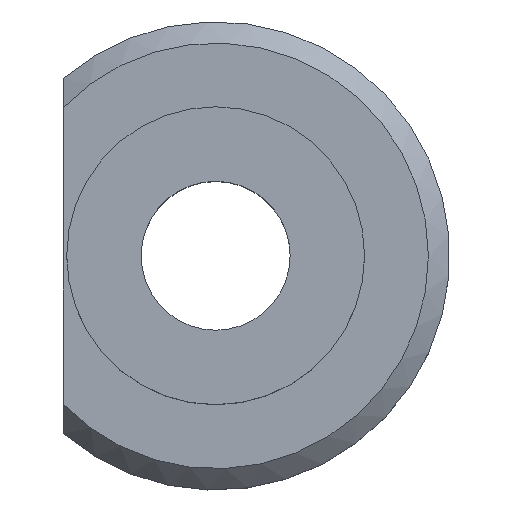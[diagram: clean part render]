
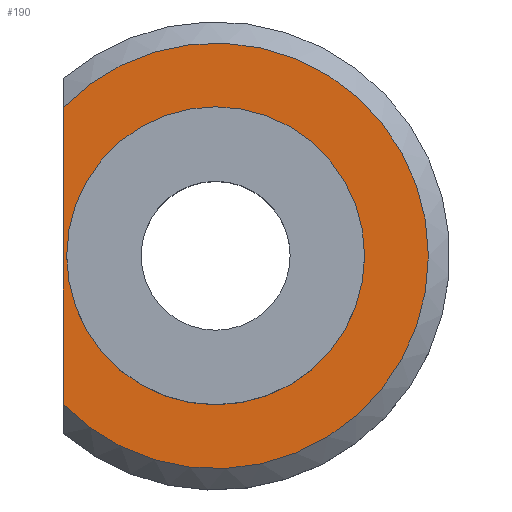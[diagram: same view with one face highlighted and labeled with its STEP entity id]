
A CAD part, top view. The second image highlights one B-rep face of the part: STEP entity #190.
In plain terms, the highlighted planar face has unit normal (0, 0, 1).
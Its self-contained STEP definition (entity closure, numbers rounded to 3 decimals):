
#2 = DIRECTION ( 'NONE',  ( 1., 0., 0. ) ) ;
#3 = FACE_OUTER_BOUND ( 'NONE', #61, .T. ) ;
#5 = ORIENTED_EDGE ( 'NONE', *, *, #242, .F. ) ;
#7 = ORIENTED_EDGE ( 'NONE', *, *, #295, .T. ) ;
#14 = CARTESIAN_POINT ( 'NONE',  ( 2.1, 0., 1.2 ) ) ;
#21 = CARTESIAN_POINT ( 'NONE',  ( -2.15, -2.092, 1.2 ) ) ;
#22 = CARTESIAN_POINT ( 'NONE',  ( 0., 0., 1.2 ) ) ;
#26 = DIRECTION ( 'NONE',  ( 0., 0., 1. ) ) ;
#30 = CIRCLE ( 'NONE', #234, 2.1 ) ;
#39 = DIRECTION ( 'NONE',  ( 0., 0., 1. ) ) ;
#49 = CARTESIAN_POINT ( 'NONE',  ( 0., 0., 1.2 ) ) ;
#57 = EDGE_CURVE ( 'NONE', #355, #92, #30, .T. ) ;
#61 = EDGE_LOOP ( 'NONE', ( #5, #7 ) ) ;
#72 = DIRECTION ( 'NONE',  ( 1., 0., 0. ) ) ;
#92 = VERTEX_POINT ( 'NONE', #14 ) ;
#101 = FACE_BOUND ( 'NONE', #251, .T. ) ;
#104 = CARTESIAN_POINT ( 'NONE',  ( -2.15, -2.503, 1.2 ) ) ;
#111 = AXIS2_PLACEMENT_3D ( 'NONE', #22, #359, #360 ) ;
#134 = CIRCLE ( 'NONE', #334, 3. ) ;
#158 = PLANE ( 'NONE',  #325 ) ;
#159 = DIRECTION ( 'NONE',  ( 0., 0., 1. ) ) ;
#167 = VERTEX_POINT ( 'NONE', #21 ) ;
#176 = EDGE_CURVE ( 'NONE', #92, #355, #272, .T. ) ;
#189 = DIRECTION ( 'NONE',  ( 1., 0., 0. ) ) ;
#190 = ADVANCED_FACE ( 'NONE', ( #3, #101 ), #158, .T. ) ;
#197 = VERTEX_POINT ( 'NONE', #304 ) ;
#199 = CARTESIAN_POINT ( 'NONE',  ( -2.1, 0., 1.2 ) ) ;
#204 = ORIENTED_EDGE ( 'NONE', *, *, #57, .F. ) ;
#217 = CARTESIAN_POINT ( 'NONE',  ( 0., 0., 1.2 ) ) ;
#234 = AXIS2_PLACEMENT_3D ( 'NONE', #238, #39, #72 ) ;
#238 = CARTESIAN_POINT ( 'NONE',  ( 0., 0., 1.2 ) ) ;
#242 = EDGE_CURVE ( 'NONE', #167, #197, #243, .T. ) ;
#243 = LINE ( 'NONE', #104, #281 ) ;
#251 = EDGE_LOOP ( 'NONE', ( #319, #204 ) ) ;
#270 = DIRECTION ( 'NONE',  ( 0., 1., 0. ) ) ;
#272 = CIRCLE ( 'NONE', #111, 2.1 ) ;
#281 = VECTOR ( 'NONE', #270, 1000. ) ;
#295 = EDGE_CURVE ( 'NONE', #167, #197, #134, .T. ) ;
#304 = CARTESIAN_POINT ( 'NONE',  ( -2.15, 2.092, 1.2 ) ) ;
#319 = ORIENTED_EDGE ( 'NONE', *, *, #176, .F. ) ;
#325 = AXIS2_PLACEMENT_3D ( 'NONE', #217, #26, #189 ) ;
#334 = AXIS2_PLACEMENT_3D ( 'NONE', #49, #159, #2 ) ;
#355 = VERTEX_POINT ( 'NONE', #199 ) ;
#359 = DIRECTION ( 'NONE',  ( 0., 0., 1. ) ) ;
#360 = DIRECTION ( 'NONE',  ( 1., 0., 0. ) ) ;
